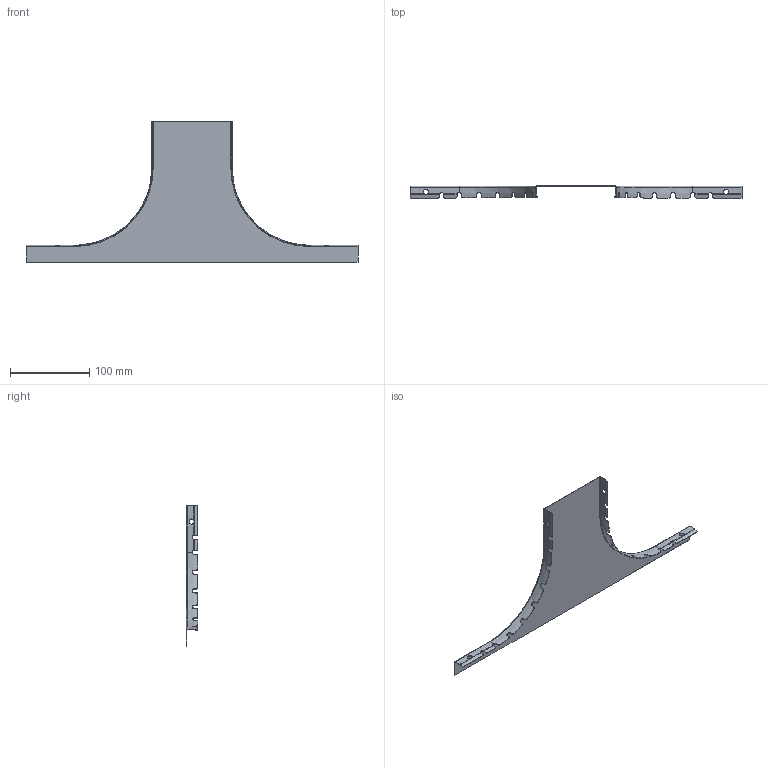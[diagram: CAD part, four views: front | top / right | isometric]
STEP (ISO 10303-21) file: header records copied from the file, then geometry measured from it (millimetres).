
FILE_DESCRIPTION (( 'STEP AP203' ), '1' );
FILE_NAME ('ERE_TAPA AS 100.step', '2023-07-27T18:55:03', ( '' ), ( '' ), 'SwSTEP 2.0', 'SolidWorks 2022', '' );
FILE_SCHEMA (( 'CONFIG_CONTROL_DESIGN' ));
Length unit declared in the file: millimetre
Products named in the file (1): ERE_TAPA AS 100
Bounding box: 420 x 15.01 x 177.8 mm (x, y, z)
Volume: 24988.9 mm3; surface area: 72441.8 mm2
Topology: 1 solids, 1 shells, 310 faces, 812 edges, 496 vertices
Faces by surface type: plane 138, bspline 94, cylinder 74, torus 4
Entity records: 17888 total; most frequent: CARTESIAN_POINT 11078, ORIENTED_EDGE 1624, DIRECTION 1067, EDGE_CURVE 812, VERTEX_POINT 496, AXIS2_PLACEMENT_3D 389, B_SPLINE_CURVE_WITH_KNOTS 351, FACE_OUTER_BOUND 310
